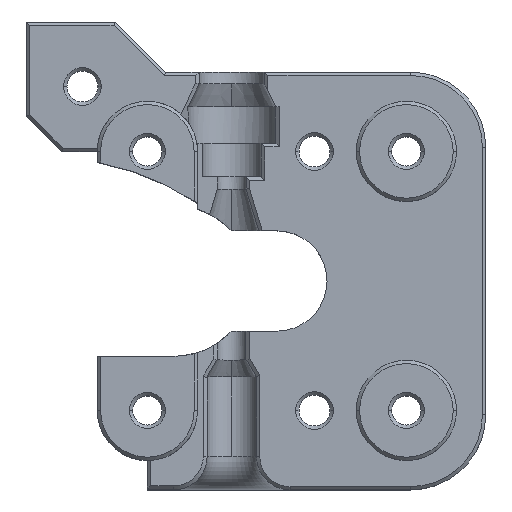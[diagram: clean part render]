
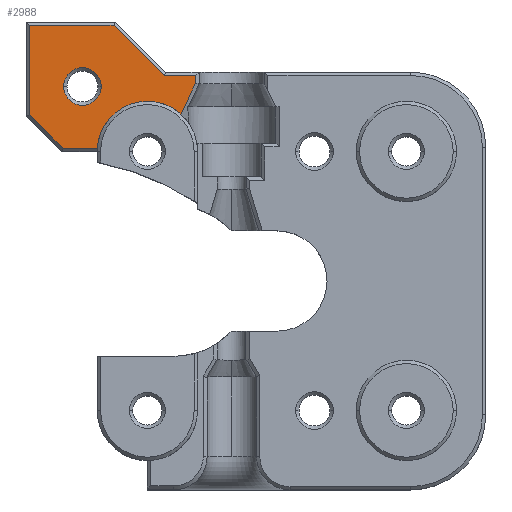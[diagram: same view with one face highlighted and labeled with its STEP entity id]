
A CAD part, top view. The second image highlights one B-rep face of the part: STEP entity #2988.
In plain terms, the highlighted planar face has unit normal (0, 0, 1).
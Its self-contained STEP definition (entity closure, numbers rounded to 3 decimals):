
#13 = CARTESIAN_POINT ( 'NONE',  ( 15.294, 48.701, 7.5 ) ) ;
#30 = DIRECTION ( 'NONE',  ( -1., 0., 0. ) ) ;
#59 = EDGE_CURVE ( 'NONE', #4920, #749, #2893, .T. ) ;
#172 = VECTOR ( 'NONE', #4297, 1000. ) ;
#381 = VECTOR ( 'NONE', #3650, 1000. ) ;
#392 = DIRECTION ( 'NONE',  ( -0.707, 0.707, 0. ) ) ;
#402 = DIRECTION ( 'NONE',  ( 0.707, -0.707, 0. ) ) ;
#405 = DIRECTION ( 'NONE',  ( -1., 0., 0. ) ) ;
#414 = CARTESIAN_POINT ( 'NONE',  ( -4.6, 44.75, 7.5 ) ) ;
#421 = AXIS2_PLACEMENT_3D ( 'NONE', #2006, #4808, #2426 ) ;
#448 = CARTESIAN_POINT ( 'NONE',  ( 13.494, 44.978, 7.5 ) ) ;
#527 = CARTESIAN_POINT ( 'NONE',  ( -4.6, 55.6, 7.5 ) ) ;
#670 = CARTESIAN_POINT ( 'NONE',  ( 3.513, 40.9, 7.5 ) ) ;
#742 = VECTOR ( 'NONE', #402, 1000. ) ;
#749 = VERTEX_POINT ( 'NONE', #4026 ) ;
#758 = EDGE_CURVE ( 'NONE', #4796, #3128, #1961, .T. ) ;
#807 = CIRCLE ( 'NONE', #421, 6. ) ;
#838 = ORIENTED_EDGE ( 'NONE', *, *, #5107, .T. ) ;
#924 = ORIENTED_EDGE ( 'NONE', *, *, #4547, .T. ) ;
#933 = ORIENTED_EDGE ( 'NONE', *, *, #758, .T. ) ;
#1099 = CARTESIAN_POINT ( 'NONE',  ( -0.528, 48.278, 7.5 ) ) ;
#1202 = CARTESIAN_POINT ( 'NONE',  ( -4.6, 44.916, 7.5 ) ) ;
#1226 = VERTEX_POINT ( 'NONE', #5168 ) ;
#1240 = LINE ( 'NONE', #1460, #172 ) ;
#1315 = CARTESIAN_POINT ( 'NONE',  ( 1.722, 48.278, 7.5 ) ) ;
#1325 = ORIENTED_EDGE ( 'NONE', *, *, #2762, .T. ) ;
#1369 = AXIS2_PLACEMENT_3D ( 'NONE', #1315, #4135, #1715 ) ;
#1460 = CARTESIAN_POINT ( 'NONE',  ( 9.5, 40.9, 7.5 ) ) ;
#1468 = CARTESIAN_POINT ( 'NONE',  ( 13.662, 45.325, 7.5 ) ) ;
#1591 = EDGE_CURVE ( 'NONE', #3360, #3501, #4481, .T. ) ;
#1626 = LINE ( 'NONE', #527, #3508 ) ;
#1694 = VECTOR ( 'NONE', #405, 1000. ) ;
#1715 = DIRECTION ( 'NONE',  ( -1., 0., 0. ) ) ;
#1743 = LINE ( 'NONE', #414, #2826 ) ;
#1754 = EDGE_CURVE ( 'NONE', #3128, #4796, #2535, .T. ) ;
#1871 = CARTESIAN_POINT ( 'NONE',  ( 13.9, 45.819, 7.5 ) ) ;
#1942 = CARTESIAN_POINT ( 'NONE',  ( 5.39, 55.717, 7.5 ) ) ;
#1961 = CIRCLE ( 'NONE', #4200, 2.25 ) ;
#2001 = CARTESIAN_POINT ( 'NONE',  ( 14.388, 46.829, 7.5 ) ) ;
#2006 = CARTESIAN_POINT ( 'NONE',  ( 9.5, 40.5, 7.5 ) ) ;
#2127 = ORIENTED_EDGE ( 'NONE', *, *, #4130, .T. ) ;
#2153 = PLANE ( 'NONE',  #3427 ) ;
#2259 = LINE ( 'NONE', #2461, #381 ) ;
#2283 = CARTESIAN_POINT ( 'NONE',  ( 14.276, 46.597, 7.5 ) ) ;
#2421 = CARTESIAN_POINT ( 'NONE',  ( 15.014, 48.124, 7.5 ) ) ;
#2426 = DIRECTION ( 'NONE',  ( -1., 0., 0. ) ) ;
#2436 = DIRECTION ( 'NONE',  ( 0., 0., -1. ) ) ;
#2461 = CARTESIAN_POINT ( 'NONE',  ( 15.294, 40.5, 7.5 ) ) ;
#2515 = VERTEX_POINT ( 'NONE', #670 ) ;
#2535 = CIRCLE ( 'NONE', #1369, 2.25 ) ;
#2557 = DIRECTION ( 'NONE',  ( -1., 0., 0. ) ) ;
#2684 = CARTESIAN_POINT ( 'NONE',  ( 14.364, 46.78, 7.5 ) ) ;
#2762 = EDGE_CURVE ( 'NONE', #3319, #3360, #3828, .T. ) ;
#2794 = CARTESIAN_POINT ( 'NONE',  ( 9.5, 49.6, 7.5 ) ) ;
#2805 = DIRECTION ( 'NONE',  ( 0., -1., 0. ) ) ;
#2823 = EDGE_LOOP ( 'NONE', ( #924, #838, #3316, #1325, #4309, #2127, #3013, #3805, #4005 ) ) ;
#2826 = VECTOR ( 'NONE', #2805, 1000. ) ;
#2867 = EDGE_LOOP ( 'NONE', ( #5153, #933 ) ) ;
#2893 = LINE ( 'NONE', #4509, #742 ) ;
#2951 = FACE_BOUND ( 'NONE', #2867, .T. ) ;
#2988 = ADVANCED_FACE ( 'NONE', ( #3890, #2951 ), #2153, .F. ) ;
#3013 = ORIENTED_EDGE ( 'NONE', *, *, #4551, .T. ) ;
#3112 = CARTESIAN_POINT ( 'NONE',  ( -4.6, 55.6, 7.5 ) ) ;
#3128 = VERTEX_POINT ( 'NONE', #3907 ) ;
#3281 = CARTESIAN_POINT ( 'NONE',  ( 14.377, 46.805, 7.5 ) ) ;
#3316 = ORIENTED_EDGE ( 'NONE', *, *, #3935, .T. ) ;
#3319 = VERTEX_POINT ( 'NONE', #4645 ) ;
#3360 = VERTEX_POINT ( 'NONE', #5086 ) ;
#3382 = B_SPLINE_CURVE_WITH_KNOTS ( 'NONE', 3,
 ( #4286, #1468, #1871, #4673, #2283, #5077, #2684, #3281, #4416, #2001, #4802, #2421, #13 ),
 .UNSPECIFIED., .F., .F.,
 ( 4, 1, 1, 1, 1, 1, 2, 2, 4 ),
 ( 0., 0.25, 0.375, 0.438, 0.469, 0.484, 0.492, 0.5, 1. ),
 .UNSPECIFIED. ) ;
#3406 = VECTOR ( 'NONE', #392, 1000. ) ;
#3427 = AXIS2_PLACEMENT_3D ( 'NONE', #3753, #4944, #2557 ) ;
#3501 = VERTEX_POINT ( 'NONE', #3990 ) ;
#3508 = VECTOR ( 'NONE', #4927, 1000. ) ;
#3650 = DIRECTION ( 'NONE',  ( 0., 1., 0. ) ) ;
#3753 = CARTESIAN_POINT ( 'NONE',  ( 9.5, 40.5, 7.5 ) ) ;
#3805 = ORIENTED_EDGE ( 'NONE', *, *, #59, .T. ) ;
#3828 = LINE ( 'NONE', #2794, #1694 ) ;
#3890 = FACE_OUTER_BOUND ( 'NONE', #2823, .T. ) ;
#3907 = CARTESIAN_POINT ( 'NONE',  ( 3.972, 48.278, 7.5 ) ) ;
#3935 = EDGE_CURVE ( 'NONE', #1226, #3319, #2259, .T. ) ;
#3990 = CARTESIAN_POINT ( 'NONE',  ( 5.507, 55.6, 7.5 ) ) ;
#4005 = ORIENTED_EDGE ( 'NONE', *, *, #4726, .T. ) ;
#4026 = CARTESIAN_POINT ( 'NONE',  ( -0.584, 40.9, 7.5 ) ) ;
#4130 = EDGE_CURVE ( 'NONE', #3501, #4794, #1626, .T. ) ;
#4135 = DIRECTION ( 'NONE',  ( 0., 0., -1. ) ) ;
#4200 = AXIS2_PLACEMENT_3D ( 'NONE', #4815, #2436, #30 ) ;
#4286 = CARTESIAN_POINT ( 'NONE',  ( 13.494, 44.978, 7.5 ) ) ;
#4297 = DIRECTION ( 'NONE',  ( 1., 0., 0. ) ) ;
#4309 = ORIENTED_EDGE ( 'NONE', *, *, #1591, .T. ) ;
#4416 = CARTESIAN_POINT ( 'NONE',  ( 14.385, 46.823, 7.5 ) ) ;
#4481 = LINE ( 'NONE', #1942, #3406 ) ;
#4509 = CARTESIAN_POINT ( 'NONE',  ( 4.658, 35.658, 7.5 ) ) ;
#4547 = EDGE_CURVE ( 'NONE', #2515, #4624, #807, .T. ) ;
#4551 = EDGE_CURVE ( 'NONE', #4794, #4920, #1743, .T. ) ;
#4624 = VERTEX_POINT ( 'NONE', #448 ) ;
#4645 = CARTESIAN_POINT ( 'NONE',  ( 15.294, 49.6, 7.5 ) ) ;
#4673 = CARTESIAN_POINT ( 'NONE',  ( 14.155, 46.346, 7.5 ) ) ;
#4726 = EDGE_CURVE ( 'NONE', #749, #2515, #1240, .T. ) ;
#4794 = VERTEX_POINT ( 'NONE', #3112 ) ;
#4796 = VERTEX_POINT ( 'NONE', #1099 ) ;
#4802 = CARTESIAN_POINT ( 'NONE',  ( 14.714, 47.503, 7.5 ) ) ;
#4808 = DIRECTION ( 'NONE',  ( 0., 0., -1. ) ) ;
#4815 = CARTESIAN_POINT ( 'NONE',  ( 1.722, 48.278, 7.5 ) ) ;
#4920 = VERTEX_POINT ( 'NONE', #1202 ) ;
#4927 = DIRECTION ( 'NONE',  ( -1., 0., 0. ) ) ;
#4944 = DIRECTION ( 'NONE',  ( 0., 0., -1. ) ) ;
#5077 = CARTESIAN_POINT ( 'NONE',  ( 14.335, 46.719, 7.5 ) ) ;
#5086 = CARTESIAN_POINT ( 'NONE',  ( 11.507, 49.6, 7.5 ) ) ;
#5107 = EDGE_CURVE ( 'NONE', #4624, #1226, #3382, .T. ) ;
#5153 = ORIENTED_EDGE ( 'NONE', *, *, #1754, .T. ) ;
#5168 = CARTESIAN_POINT ( 'NONE',  ( 15.294, 48.701, 7.5 ) ) ;
